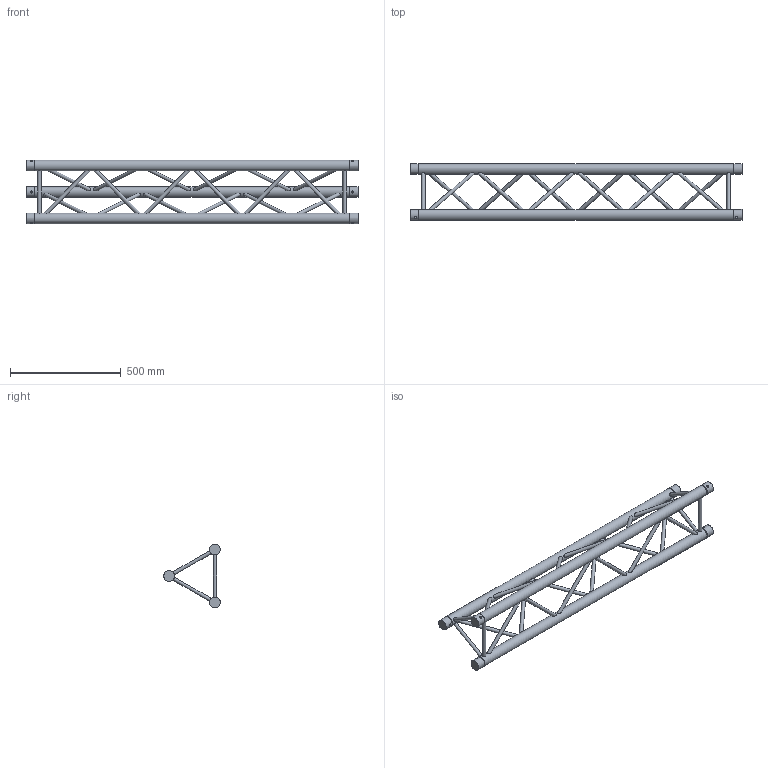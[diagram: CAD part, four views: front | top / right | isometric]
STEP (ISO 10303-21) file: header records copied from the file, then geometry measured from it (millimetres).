
FILE_DESCRIPTION(/* description */ (''),/* implementation_level */ '2;1');
FILE_NAME(/* name */ 'M:\Symbolen\STP\30-er truss\111050019.stp',/* time_stamp */ '2014-12-03T11:31:28+01:00',/* author */ ('Stephan'),/* organization */ (''),/* preprocessor_version */ 'ST-DEVELOPER v15.6',/* originating_system */ 'Autodesk Inventor 2015',/* authorisation */ '');
FILE_SCHEMA (('AUTOMOTIVE_DESIGN { 1 0 10303 214 3 1 1 }'));
Length unit declared in the file: millimetre
Products named in the file (1): 160023776
Bounding box: 1500 x 255.28 x 287.3 mm (x, y, z)
Volume: 8966693.7 mm3; surface area: 1018443.4 mm2
Topology: 21 solids, 27 shells, 117 faces, 189 edges, 126 vertices
Faces by surface type: plane 72, cylinder 39, cone 6
Full cylindrical faces by diameter (mm): 10 x6, 16 x24, 48.3 x9
Entity records: 3042 total; most frequent: CARTESIAN_POINT 766, DIRECTION 416, ORIENTED_EDGE 264, AXIS2_PLACEMENT_3D 202, EDGE_LOOP 192, STYLED_ITEM 136, EDGE_CURVE 120, FACE_OUTER_BOUND 117
